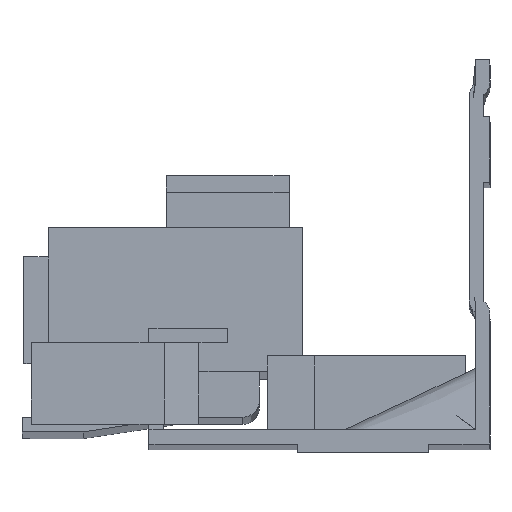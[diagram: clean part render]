
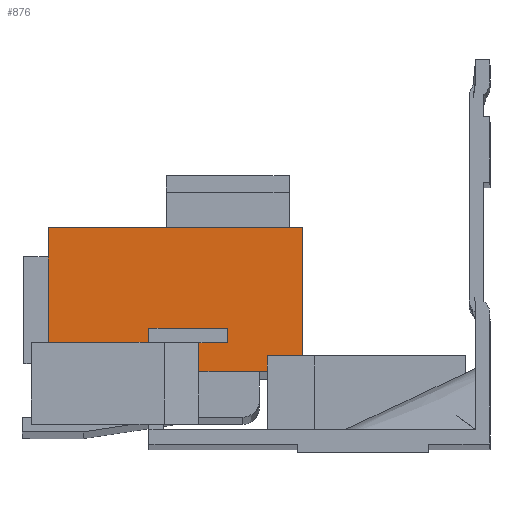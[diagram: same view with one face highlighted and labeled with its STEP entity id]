
A CAD part, front view. The second image highlights one B-rep face of the part: STEP entity #876.
In plain terms, the highlighted planar face has unit normal (0, -1, 0).
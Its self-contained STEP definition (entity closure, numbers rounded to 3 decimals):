
#236 = ORIENTED_EDGE ( 'NONE', *, *, #4395, .T. ) ;
#237 = ORIENTED_EDGE ( 'NONE', *, *, #4396, .F. ) ;
#238 = ORIENTED_EDGE ( 'NONE', *, *, #4397, .F. ) ;
#239 = ORIENTED_EDGE ( 'NONE', *, *, #4398, .F. ) ;
#240 = ORIENTED_EDGE ( 'NONE', *, *, #4409, .F. ) ;
#241 = ORIENTED_EDGE ( 'NONE', *, *, #4442, .F. ) ;
#242 = ORIENTED_EDGE ( 'NONE', *, *, #4449, .T. ) ;
#243 = ORIENTED_EDGE ( 'NONE', *, *, #4463, .T. ) ;
#244 = ORIENTED_EDGE ( 'NONE', *, *, #4399, .T. ) ;
#245 = ORIENTED_EDGE ( 'NONE', *, *, #4400, .T. ) ;
#246 = ORIENTED_EDGE ( 'NONE', *, *, #4401, .T. ) ;
#247 = ORIENTED_EDGE ( 'NONE', *, *, #4402, .T. ) ;
#418 = EDGE_LOOP ( 'NONE', ( #247, #246, #245, #244, #243, #242, #241, #240, #239, #238, #237, #236 ) ) ;
#876 = ADVANCED_FACE ( 'NONE', ( #3501 ), #942, .F. ) ;
#939 = DIRECTION ( 'NONE',  ( -1., 0., 0. ) ) ;
#940 = DIRECTION ( 'NONE',  ( 0., 1., 0. ) ) ;
#941 = CARTESIAN_POINT ( 'NONE',  ( -49.9, -20., -27.058 ) ) ;
#942 = PLANE ( 'NONE',  #4657 ) ;
#1574 = VERTEX_POINT ( 'NONE', #2378 ) ;
#1630 = VERTEX_POINT ( 'NONE', #2434 ) ;
#1632 = VERTEX_POINT ( 'NONE', #2436 ) ;
#1653 = VERTEX_POINT ( 'NONE', #2457 ) ;
#1659 = VERTEX_POINT ( 'NONE', #2463 ) ;
#1664 = VERTEX_POINT ( 'NONE', #2468 ) ;
#1666 = VERTEX_POINT ( 'NONE', #2470 ) ;
#1669 = VERTEX_POINT ( 'NONE', #2473 ) ;
#1670 = VERTEX_POINT ( 'NONE', #2474 ) ;
#1671 = VERTEX_POINT ( 'NONE', #2475 ) ;
#1673 = VERTEX_POINT ( 'NONE', #2477 ) ;
#1737 = VERTEX_POINT ( 'NONE', #2500 ) ;
#2378 = CARTESIAN_POINT ( 'NONE',  ( -41.6, -20., -23.558 ) ) ;
#2434 = CARTESIAN_POINT ( 'NONE',  ( -53.9, -20., -9.558 ) ) ;
#2436 = CARTESIAN_POINT ( 'NONE',  ( -22.9, -20., -9.558 ) ) ;
#2457 = CARTESIAN_POINT ( 'NONE',  ( -41.6, -20., -21.858 ) ) ;
#2463 = CARTESIAN_POINT ( 'NONE',  ( -53.9, -20., -23.558 ) ) ;
#2468 = CARTESIAN_POINT ( 'NONE',  ( -35.5, -20., -23.608 ) ) ;
#2470 = CARTESIAN_POINT ( 'NONE',  ( -32., -20., -21.858 ) ) ;
#2473 = CARTESIAN_POINT ( 'NONE',  ( -22.9, -20., -25.181 ) ) ;
#2474 = CARTESIAN_POINT ( 'NONE',  ( -27.15, -20., -27.058 ) ) ;
#2475 = CARTESIAN_POINT ( 'NONE',  ( -35.5, -20., -27.058 ) ) ;
#2477 = CARTESIAN_POINT ( 'NONE',  ( -32., -20., -23.608 ) ) ;
#2500 = CARTESIAN_POINT ( 'NONE',  ( -27.15, -20., -25.181 ) ) ;
#2869 = CARTESIAN_POINT ( 'NONE',  ( -35.5, -20., -27.058 ) ) ;
#2870 = DIRECTION ( 'NONE',  ( 0., 0., -1. ) ) ;
#2871 = CARTESIAN_POINT ( 'NONE',  ( -32., -20., -23.608 ) ) ;
#2872 = DIRECTION ( 'NONE',  ( 1., 0., 0. ) ) ;
#2873 = CARTESIAN_POINT ( 'NONE',  ( -32., -20., -21.831 ) ) ;
#2874 = DIRECTION ( 'NONE',  ( 0., 0., 1. ) ) ;
#2875 = CARTESIAN_POINT ( 'NONE',  ( -41.6, -20., -21.858 ) ) ;
#2876 = DIRECTION ( 'NONE',  ( -1., 0., 0. ) ) ;
#2877 = CARTESIAN_POINT ( 'NONE',  ( -22.9, -20., -27.058 ) ) ;
#2878 = DIRECTION ( 'NONE',  ( 0., 0., 1. ) ) ;
#2879 = CARTESIAN_POINT ( 'NONE',  ( -49.9, -20., -25.181 ) ) ;
#2880 = DIRECTION ( 'NONE',  ( 1., 0., 0. ) ) ;
#2881 = CARTESIAN_POINT ( 'NONE',  ( -27.15, -20., -27.058 ) ) ;
#2882 = DIRECTION ( 'NONE',  ( 0., 0., 1. ) ) ;
#2883 = CARTESIAN_POINT ( 'NONE',  ( -49.9, -20., -27.058 ) ) ;
#2884 = DIRECTION ( 'NONE',  ( 1., 0., 0. ) ) ;
#2897 = CARTESIAN_POINT ( 'NONE',  ( -41.6, -20., -35.931 ) ) ;
#2898 = DIRECTION ( 'NONE',  ( 0., 0., -1. ) ) ;
#2963 = CARTESIAN_POINT ( 'NONE',  ( -49.9, -20., -23.558 ) ) ;
#2964 = DIRECTION ( 'NONE',  ( -1., 0., 0. ) ) ;
#2977 = CARTESIAN_POINT ( 'NONE',  ( -53.9, -20., -29.558 ) ) ;
#2978 = DIRECTION ( 'NONE',  ( 0., 0., -1. ) ) ;
#3005 = CARTESIAN_POINT ( 'NONE',  ( -53.9, -20., -9.558 ) ) ;
#3006 = DIRECTION ( 'NONE',  ( -1., 0., 0. ) ) ;
#3501 = FACE_OUTER_BOUND ( 'NONE', #418, .T. ) ;
#3747 = LINE ( 'NONE', #2869, #3748 ) ;
#3748 = VECTOR ( 'NONE', #2870, 1000. ) ;
#3749 = LINE ( 'NONE', #2871, #3750 ) ;
#3750 = VECTOR ( 'NONE', #2872, 1000. ) ;
#3751 = LINE ( 'NONE', #2873, #3752 ) ;
#3752 = VECTOR ( 'NONE', #2874, 1000. ) ;
#3753 = LINE ( 'NONE', #2875, #3754 ) ;
#3754 = VECTOR ( 'NONE', #2876, 1000. ) ;
#3755 = LINE ( 'NONE', #2877, #3756 ) ;
#3756 = VECTOR ( 'NONE', #2878, 1000. ) ;
#3757 = LINE ( 'NONE', #2879, #3758 ) ;
#3758 = VECTOR ( 'NONE', #2880, 1000. ) ;
#3759 = LINE ( 'NONE', #2881, #3760 ) ;
#3760 = VECTOR ( 'NONE', #2882, 1000. ) ;
#3761 = LINE ( 'NONE', #2883, #3762 ) ;
#3762 = VECTOR ( 'NONE', #2884, 1000. ) ;
#3775 = LINE ( 'NONE', #2897, #3776 ) ;
#3776 = VECTOR ( 'NONE', #2898, 1000. ) ;
#3841 = LINE ( 'NONE', #2963, #3842 ) ;
#3842 = VECTOR ( 'NONE', #2964, 1000. ) ;
#3855 = LINE ( 'NONE', #2977, #3856 ) ;
#3856 = VECTOR ( 'NONE', #2978, 1000. ) ;
#3883 = LINE ( 'NONE', #3005, #3884 ) ;
#3884 = VECTOR ( 'NONE', #3006, 1000. ) ;
#4395 = EDGE_CURVE ( 'NONE', #1664, #1671, #3747, .T. ) ;
#4396 = EDGE_CURVE ( 'NONE', #1664, #1673, #3749, .T. ) ;
#4397 = EDGE_CURVE ( 'NONE', #1673, #1666, #3751, .T. ) ;
#4398 = EDGE_CURVE ( 'NONE', #1666, #1653, #3753, .T. ) ;
#4399 = EDGE_CURVE ( 'NONE', #1669, #1632, #3755, .T. ) ;
#4400 = EDGE_CURVE ( 'NONE', #1737, #1669, #3757, .T. ) ;
#4401 = EDGE_CURVE ( 'NONE', #1670, #1737, #3759, .T. ) ;
#4402 = EDGE_CURVE ( 'NONE', #1671, #1670, #3761, .T. ) ;
#4409 = EDGE_CURVE ( 'NONE', #1653, #1574, #3775, .T. ) ;
#4442 = EDGE_CURVE ( 'NONE', #1574, #1659, #3841, .T. ) ;
#4449 = EDGE_CURVE ( 'NONE', #1630, #1659, #3855, .T. ) ;
#4463 = EDGE_CURVE ( 'NONE', #1632, #1630, #3883, .T. ) ;
#4657 = AXIS2_PLACEMENT_3D ( 'NONE', #941, #940, #939 ) ;
